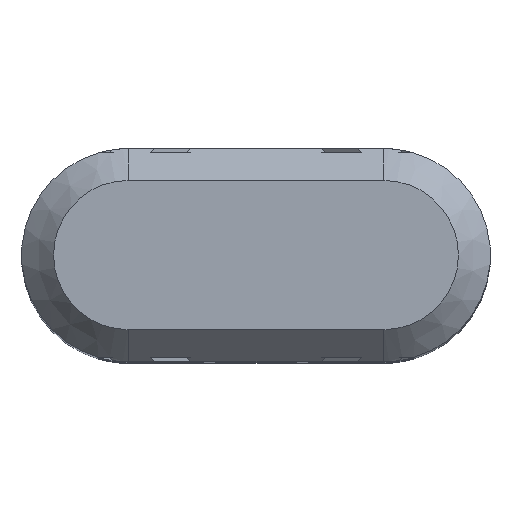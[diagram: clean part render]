
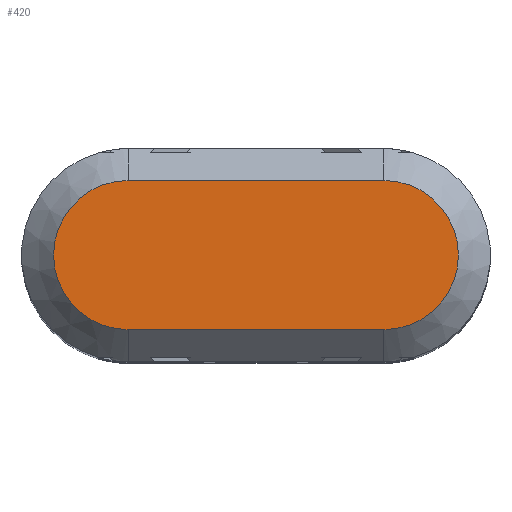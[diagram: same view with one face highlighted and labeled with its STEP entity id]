
A CAD part, top view. The second image highlights one B-rep face of the part: STEP entity #420.
In plain terms, the highlighted planar face has unit normal (0, 0, 1).
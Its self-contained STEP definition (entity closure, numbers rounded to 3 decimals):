
#10=CARTESIAN_POINT('',(13.869,4.044,-28.));
#20=DIRECTION('',(0.,0.,1.));
#30=DIRECTION('',(1.,0.,0.));
#40=AXIS2_PLACEMENT_3D('',#10,#20,#30);
#50=PLANE('',#40);
#60=CARTESIAN_POINT('',(7.869,4.044,-28.));
#70=DIRECTION('',(0.,0.,1.));
#80=DIRECTION('',(1.,0.,-0.));
#90=AXIS2_PLACEMENT_3D('',#60,#70,#80);
#100=CIRCLE('',#90,3.5);
#110=CARTESIAN_POINT('',(7.869,7.544,-28.));
#120=VERTEX_POINT('',#110);
#130=CARTESIAN_POINT('',(7.869,0.544,-28.));
#140=VERTEX_POINT('',#130);
#150=EDGE_CURVE('',#120,#140,#100,.T.);
#160=ORIENTED_EDGE('',*,*,#150,.T.);
#170=CARTESIAN_POINT('',(13.869,7.544,-28.));
#180=DIRECTION('',(-1.,0.,0.));
#190=VECTOR('',#180,1.);
#200=LINE('',#170,#190);
#210=CARTESIAN_POINT('',(19.869,7.544,-28.));
#220=VERTEX_POINT('',#210);
#230=EDGE_CURVE('',#220,#120,#200,.T.);
#240=ORIENTED_EDGE('',*,*,#230,.T.);
#250=CARTESIAN_POINT('',(19.869,4.044,-28.));
#260=DIRECTION('',(0.,0.,1.));
#270=DIRECTION('',(1.,0.,-0.));
#280=AXIS2_PLACEMENT_3D('',#250,#260,#270);
#290=CIRCLE('',#280,3.5);
#300=CARTESIAN_POINT('',(19.869,0.544,-28.));
#310=VERTEX_POINT('',#300);
#320=EDGE_CURVE('',#310,#220,#290,.T.);
#330=ORIENTED_EDGE('',*,*,#320,.T.);
#340=CARTESIAN_POINT('',(13.869,0.544,-28.));
#350=DIRECTION('',(1.,0.,-0.));
#360=VECTOR('',#350,1.);
#370=LINE('',#340,#360);
#380=EDGE_CURVE('',#140,#310,#370,.T.);
#390=ORIENTED_EDGE('',*,*,#380,.T.);
#400=EDGE_LOOP('',(#390,#330,#240,#160));
#410=FACE_OUTER_BOUND('',#400,.T.);
#420=ADVANCED_FACE('',(#410),#50,.T.);
